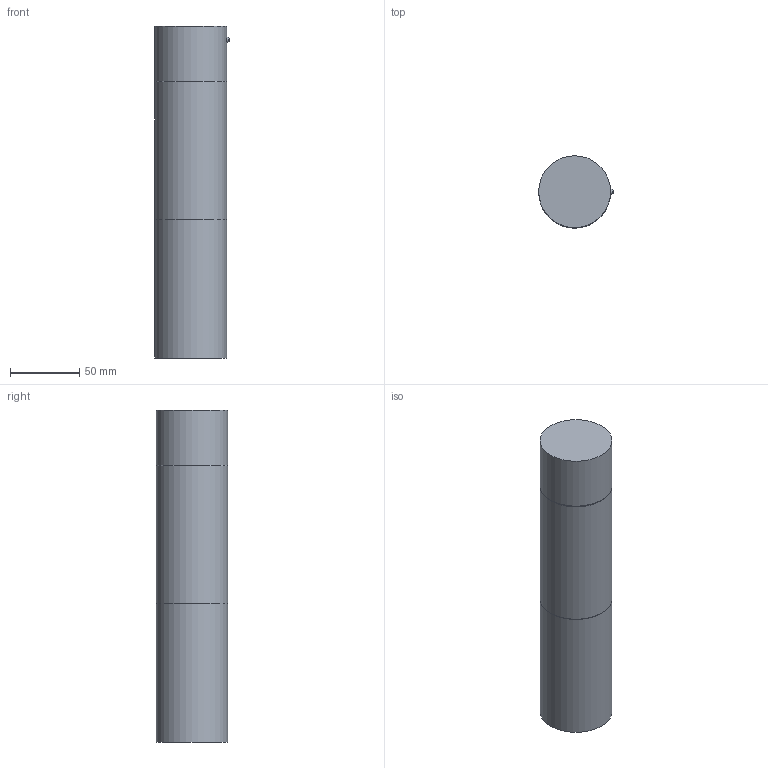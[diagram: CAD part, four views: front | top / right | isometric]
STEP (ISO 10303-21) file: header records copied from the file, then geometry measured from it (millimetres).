
FILE_DESCRIPTION(/* description */ (''),/* implementation_level */ '2;1');
FILE_NAME(/* name */ 'D:\TK Lighting\2021\_Elit\Elit Black 4369.stp',/* time_stamp */ '2021-04-05T21:53:42+02:00',/* author */ ('Admin'),/* organization */ (''),/* preprocessor_version */ 'ST-DEVELOPER v16.5',/* originating_system */ 'Autodesk Inventor 2017',/* authorisation */ '');
FILE_SCHEMA (('AUTOMOTIVE_DESIGN { 1 0 10303 214 3 1 1 }'));
Length unit declared in the file: millimetre
Products named in the file (1): Elit Black 4369
Bounding box: 53.99 x 52 x 240 mm (x, y, z)
Volume: 88081.1 mm3; surface area: 82324.4 mm2
Topology: 1 solids, 2 shells, 36 faces, 83 edges, 55 vertices
Faces by surface type: plane 25, cylinder 7, torus 3, bspline 1
Full cylindrical faces by diameter (mm): 4 x2, 48 x2, 52 x3
Entity records: 1104 total; most frequent: CARTESIAN_POINT 298, DIRECTION 162, ORIENTED_EDGE 136, AXIS2_PLACEMENT_3D 69, EDGE_CURVE 68, EDGE_LOOP 51, VERTEX_POINT 51, FACE_OUTER_BOUND 36
